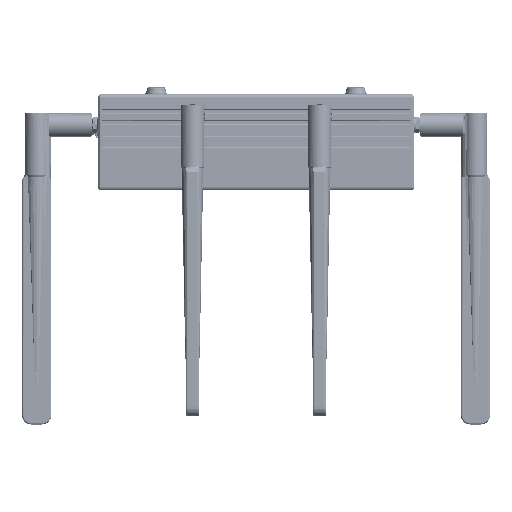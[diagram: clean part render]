
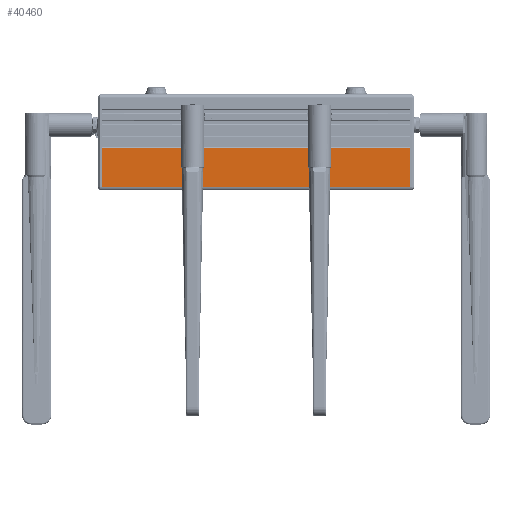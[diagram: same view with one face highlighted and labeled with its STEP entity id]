
A CAD part, left-side view. The second image highlights one B-rep face of the part: STEP entity #40460.
In plain terms, the highlighted planar face has unit normal (-1, 0, 0).
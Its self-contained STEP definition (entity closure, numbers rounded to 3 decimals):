
#157=DIRECTION('',(0.,0.,1.));
#158=VECTOR('',#157,21.4);
#159=CARTESIAN_POINT('',(-76.,-84.75,-24.5));
#160=LINE('',#159,#158);
#12916=DIRECTION('',(0.,0.,1.));
#12917=VECTOR('',#12916,21.4);
#12918=CARTESIAN_POINT('',(-76.,84.75,-24.5));
#12919=LINE('',#12918,#12917);
#16031=DIRECTION('',(0.,1.,0.));
#16032=VECTOR('',#16031,169.5);
#16033=CARTESIAN_POINT('',(-76.,-84.75,-24.5));
#16034=LINE('',#16033,#16032);
#16038=DIRECTION('',(0.,1.,0.));
#16039=VECTOR('',#16038,169.5);
#16040=CARTESIAN_POINT('',(-76.,-84.75,-3.1));
#16041=LINE('',#16040,#16039);
#26510=CARTESIAN_POINT('',(-76.,-84.75,-24.5));
#26511=VERTEX_POINT('',#26510);
#26512=CARTESIAN_POINT('',(-76.,-84.75,-3.1));
#26513=VERTEX_POINT('',#26512);
#26948=CARTESIAN_POINT('',(-76.,84.75,-24.5));
#26949=VERTEX_POINT('',#26948);
#26950=CARTESIAN_POINT('',(-76.,84.75,-3.1));
#26951=VERTEX_POINT('',#26950);
#40448=CARTESIAN_POINT('',(-76.,-84.75,-24.5));
#40449=DIRECTION('',(-1.,0.,0.));
#40450=DIRECTION('',(0.,0.,1.));
#40451=AXIS2_PLACEMENT_3D('',#40448,#40449,#40450);
#40452=PLANE('',#40451);
#40453=ORIENTED_EDGE('',*,*,#29853,.F.);
#40454=ORIENTED_EDGE('',*,*,#40443,.T.);
#40455=ORIENTED_EDGE('',*,*,#37249,.T.);
#40457=ORIENTED_EDGE('',*,*,#40456,.F.);
#40458=EDGE_LOOP('',(#40453,#40454,#40455,#40457));
#40459=FACE_OUTER_BOUND('',#40458,.F.);
#29853=EDGE_CURVE('',#26511,#26513,#160,.T.);
#37249=EDGE_CURVE('',#26949,#26951,#12919,.T.);
#40443=EDGE_CURVE('',#26511,#26949,#16034,.T.);
#40456=EDGE_CURVE('',#26513,#26951,#16041,.T.);
#40460=ADVANCED_FACE('',(#40459),#40452,.T.);
